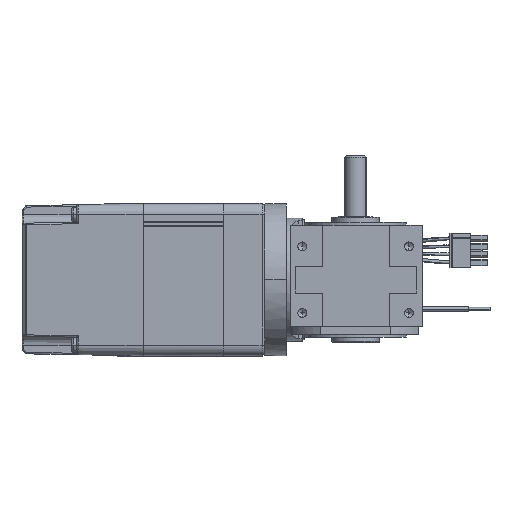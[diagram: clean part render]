
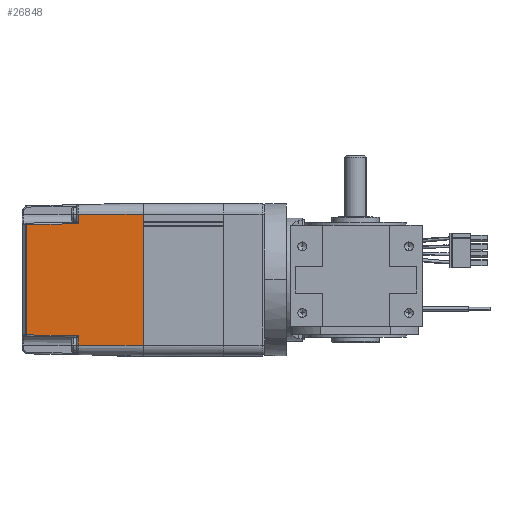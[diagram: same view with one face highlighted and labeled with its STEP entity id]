
A CAD part, front view. The second image highlights one B-rep face of the part: STEP entity #26848.
In plain terms, the highlighted planar face has unit normal (-0.018, -1, 0) as drawn and (0, 0.017, -1) by its records, which use the part's own axes.
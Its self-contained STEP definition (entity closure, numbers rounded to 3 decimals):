
#191 = VERTEX_POINT ( 'NONE', #21873 ) ;
#321 = VECTOR ( 'NONE', #5773, 1000. ) ;
#813 = PLANE ( 'NONE',  #28990 ) ;
#1163 = VECTOR ( 'NONE', #38897, 1000. ) ;
#1489 = VERTEX_POINT ( 'NONE', #35428 ) ;
#2179 = DIRECTION ( 'NONE',  ( 1., 0., 0. ) ) ;
#2890 = CARTESIAN_POINT ( 'NONE',  ( -24.5, 69.81, -28.126 ) ) ;
#3406 = LINE ( 'NONE', #3677, #20578 ) ;
#3677 = CARTESIAN_POINT ( 'NONE',  ( -24.5, 45.501, -28.55 ) ) ;
#4144 = ORIENTED_EDGE ( 'NONE', *, *, #5987, .F. ) ;
#4471 = EDGE_CURVE ( 'NONE', #43216, #21387, #40899, .T. ) ;
#4832 = LINE ( 'NONE', #47086, #1163 ) ;
#5042 = EDGE_CURVE ( 'NONE', #1489, #21387, #4832, .T. ) ;
#5515 = CARTESIAN_POINT ( 'NONE',  ( 20.637, 91.104, -27.754 ) ) ;
#5773 = DIRECTION ( 'NONE',  ( -0.017, 1., 0.017 ) ) ;
#5987 = EDGE_CURVE ( 'NONE', #31332, #31796, #31157, .T. ) ;
#6916 = CARTESIAN_POINT ( 'NONE',  ( 30.61, 45.5, -28.55 ) ) ;
#7238 = DIRECTION ( 'NONE',  ( -1., 0., 0. ) ) ;
#7380 = EDGE_LOOP ( 'NONE', ( #21908, #29524, #4144, #53639, #35308, #36336, #31795, #30071 ) ) ;
#7629 = CARTESIAN_POINT ( 'NONE',  ( 21.008, 69.81, -28.126 ) ) ;
#11764 = EDGE_CURVE ( 'NONE', #23785, #191, #41810, .T. ) ;
#13428 = CARTESIAN_POINT ( 'NONE',  ( 24.5, 45.501, -28.55 ) ) ;
#14866 = CARTESIAN_POINT ( 'NONE',  ( -21.371, 89.197, -27.787 ) ) ;
#15225 = CARTESIAN_POINT ( 'NONE',  ( 30.61, 69.81, -28.126 ) ) ;
#15822 = CARTESIAN_POINT ( 'NONE',  ( -21.008, 69.81, -28.126 ) ) ;
#20414 = CARTESIAN_POINT ( 'NONE',  ( 30.61, 69.81, -28.126 ) ) ;
#20578 = VECTOR ( 'NONE', #40484, 1000. ) ;
#20834 = VECTOR ( 'NONE', #38525, 1000. ) ;
#21302 = VERTEX_POINT ( 'NONE', #43943 ) ;
#21387 = VERTEX_POINT ( 'NONE', #15822 ) ;
#21524 = DIRECTION ( 'NONE',  ( 0., 0.017, -1. ) ) ;
#21873 = CARTESIAN_POINT ( 'NONE',  ( 24.5, 45.5, -28.55 ) ) ;
#21908 = ORIENTED_EDGE ( 'NONE', *, *, #5042, .F. ) ;
#23785 = VERTEX_POINT ( 'NONE', #25176 ) ;
#25176 = CARTESIAN_POINT ( 'NONE',  ( 24.5, 69.81, -28.126 ) ) ;
#26848 = ADVANCED_FACE ( 'NONE', ( #46362 ), #813, .T. ) ;
#28124 = EDGE_CURVE ( 'NONE', #191, #21302, #48613, .T. ) ;
#28990 = AXIS2_PLACEMENT_3D ( 'NONE', #50724, #21524, #33833 ) ;
#29524 = ORIENTED_EDGE ( 'NONE', *, *, #48750, .F. ) ;
#30071 = ORIENTED_EDGE ( 'NONE', *, *, #4471, .T. ) ;
#31005 = CARTESIAN_POINT ( 'NONE',  ( 20.67, 89.197, -27.787 ) ) ;
#31157 = LINE ( 'NONE', #5515, #321 ) ;
#31332 = VERTEX_POINT ( 'NONE', #7629 ) ;
#31795 = ORIENTED_EDGE ( 'NONE', *, *, #31844, .T. ) ;
#31796 = VERTEX_POINT ( 'NONE', #31005 ) ;
#31844 = EDGE_CURVE ( 'NONE', #21302, #43216, #3406, .T. ) ;
#33833 = DIRECTION ( 'NONE',  ( 0., 1., 0.017 ) ) ;
#33851 = VECTOR ( 'NONE', #7238, 1000. ) ;
#35023 = EDGE_CURVE ( 'NONE', #31332, #23785, #47986, .T. ) ;
#35308 = ORIENTED_EDGE ( 'NONE', *, *, #11764, .T. ) ;
#35428 = CARTESIAN_POINT ( 'NONE',  ( -20.67, 89.197, -27.787 ) ) ;
#36127 = LINE ( 'NONE', #14866, #33851 ) ;
#36336 = ORIENTED_EDGE ( 'NONE', *, *, #28124, .T. ) ;
#38525 = DIRECTION ( 'NONE',  ( 0., -1., -0.017 ) ) ;
#38897 = DIRECTION ( 'NONE',  ( -0.017, -1., -0.017 ) ) ;
#40040 = VECTOR ( 'NONE', #2179, 1000. ) ;
#40484 = DIRECTION ( 'NONE',  ( 0., 1., 0.017 ) ) ;
#40899 = LINE ( 'NONE', #20414, #50761 ) ;
#41810 = LINE ( 'NONE', #13428, #20834 ) ;
#43216 = VERTEX_POINT ( 'NONE', #2890 ) ;
#43943 = CARTESIAN_POINT ( 'NONE',  ( -24.5, 45.5, -28.55 ) ) ;
#46362 = FACE_OUTER_BOUND ( 'NONE', #7380, .T. ) ;
#47086 = CARTESIAN_POINT ( 'NONE',  ( -21.437, 45.245, -28.554 ) ) ;
#47986 = LINE ( 'NONE', #15225, #40040 ) ;
#48613 = LINE ( 'NONE', #6916, #51801 ) ;
#48750 = EDGE_CURVE ( 'NONE', #31796, #1489, #36127, .T. ) ;
#50724 = CARTESIAN_POINT ( 'NONE',  ( 30.61, 45.501, -28.55 ) ) ;
#50761 = VECTOR ( 'NONE', #53945, 1000. ) ;
#51632 = DIRECTION ( 'NONE',  ( -1., 0., 0. ) ) ;
#51801 = VECTOR ( 'NONE', #51632, 1000. ) ;
#53639 = ORIENTED_EDGE ( 'NONE', *, *, #35023, .T. ) ;
#53945 = DIRECTION ( 'NONE',  ( 1., 0., 0. ) ) ;
